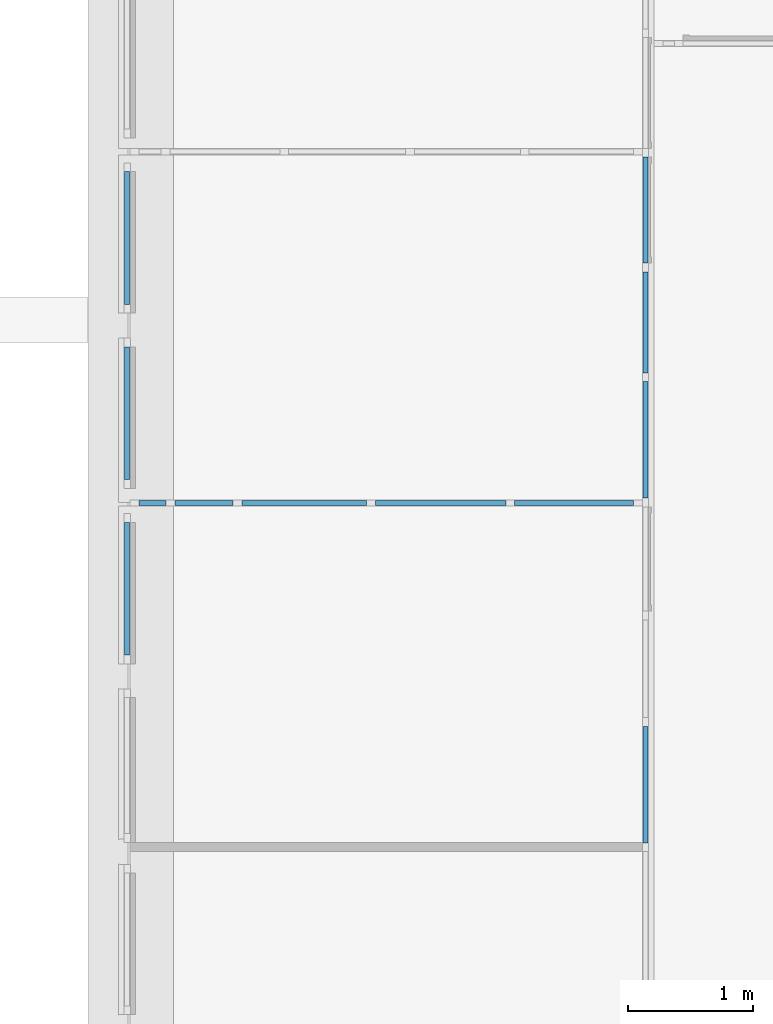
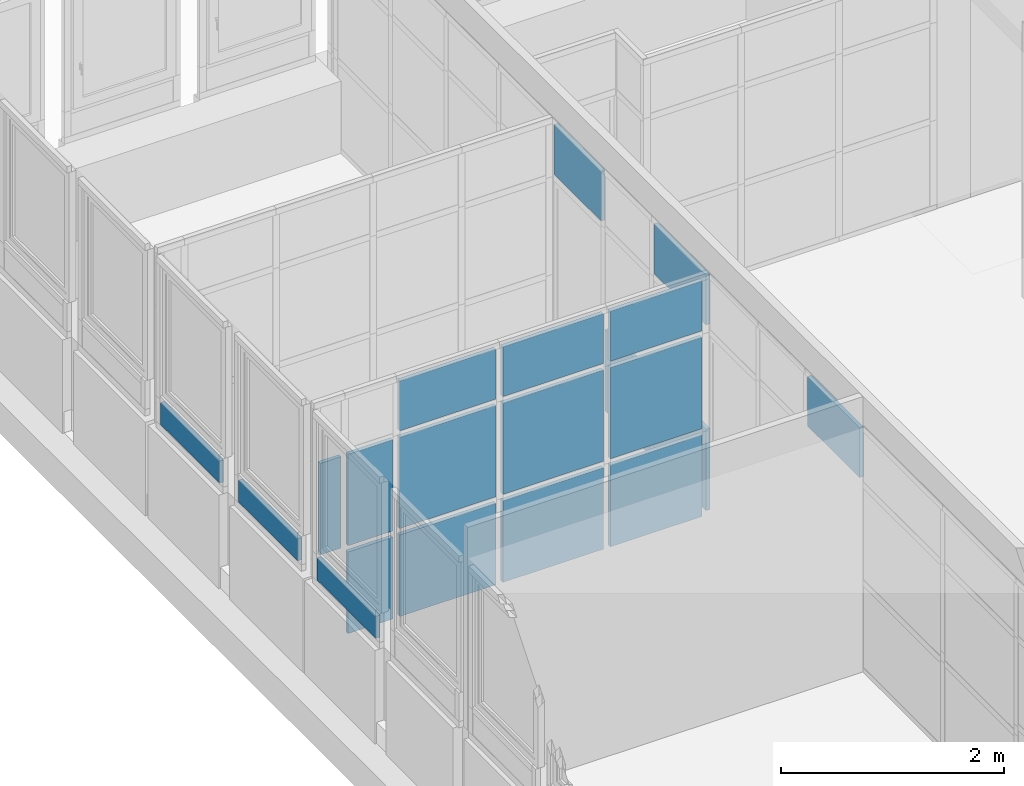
# One storey, part 28 of 97: 20 plates, 5 elements without a shape of their own.
"""IFC4 building model written with IfcOpenShell, lengths in metres."""

from ifc_helpers import new_model, entity, si_unit, converted_unit, derived_unit, direction, frame, origin, place, context, subcontext, project, spatial, indexed_curve, outline, extrude, shape, source, transform, mapped, material, layer, layer_set, type_object, type_shapes, element, aggregate, save


model = new_model("IFC4")

# Units and contexts
model_context = context("Model", 3, precision=1e-05, world=origin(), true_north=direction((6.12303176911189e-17, 1.0)))
body_context = subcontext(model_context, "Body", "Model", "MODEL_VIEW")
footprint_context = subcontext(model_context, "FootPrint", "Model", "MODEL_VIEW")
ifc_project = project(units=[si_unit("LENGTHUNIT", "METRE"), si_unit("AREAUNIT", "SQUARE_METRE"), si_unit("VOLUMEUNIT", "CUBIC_METRE"), converted_unit("PLANEANGLEUNIT", "DEGREE", entity("IfcRatioMeasure", 0.0174532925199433), si_unit("PLANEANGLEUNIT", "RADIAN"), dimensions=[0, 0, 0, 0, 0, 0, 0]), si_unit("MASSUNIT", "GRAM", prefix="KILO"), derived_unit("MASSDENSITYUNIT", [(si_unit("MASSUNIT", "GRAM", prefix="KILO"), 1), (si_unit("LENGTHUNIT", "METRE"), -3)]), derived_unit("MOMENTOFINERTIAUNIT", [(si_unit("LENGTHUNIT", "METRE"), 4)]), si_unit("TIMEUNIT", "SECOND"), si_unit("FREQUENCYUNIT", "HERTZ"), si_unit("THERMODYNAMICTEMPERATUREUNIT", "DEGREE_CELSIUS"), derived_unit("THERMALTRANSMITTANCEUNIT", [(si_unit("MASSUNIT", "GRAM", prefix="KILO"), 1), (si_unit("THERMODYNAMICTEMPERATUREUNIT", "KELVIN"), -1), (si_unit("TIMEUNIT", "SECOND"), -3)]), derived_unit("VOLUMETRICFLOWRATEUNIT", [(si_unit("LENGTHUNIT", "METRE"), 3), (si_unit("TIMEUNIT", "SECOND"), -1)]), si_unit("ELECTRICCURRENTUNIT", "AMPERE"), si_unit("ELECTRICVOLTAGEUNIT", "VOLT"), si_unit("POWERUNIT", "WATT"), si_unit("FORCEUNIT", "NEWTON", prefix="KILO"), si_unit("ILLUMINANCEUNIT", "LUX"), si_unit("LUMINOUSFLUXUNIT", "LUMEN"), si_unit("LUMINOUSINTENSITYUNIT", "CANDELA"), derived_unit("USERDEFINED", [(si_unit("MASSUNIT", "GRAM", prefix="KILO"), -1), (si_unit("LENGTHUNIT", "METRE"), -2), (si_unit("TIMEUNIT", "SECOND"), 3), (si_unit("LUMINOUSFLUXUNIT", "LUMEN"), 1)]), derived_unit("LINEARVELOCITYUNIT", [(si_unit("LENGTHUNIT", "METRE"), 1), (si_unit("TIMEUNIT", "SECOND"), -1)]), si_unit("PRESSUREUNIT", "PASCAL"), derived_unit("USERDEFINED", [(si_unit("LENGTHUNIT", "METRE"), -2), (si_unit("MASSUNIT", "GRAM", prefix="KILO"), 1), (si_unit("TIMEUNIT", "SECOND"), -2)]), derived_unit("LINEARFORCEUNIT", [(si_unit("MASSUNIT", "GRAM", prefix="KILO"), 1), (si_unit("LENGTHUNIT", "METRE"), 1), (si_unit("TIMEUNIT", "SECOND"), -2), (si_unit("LENGTHUNIT", "METRE"), -1)]), derived_unit("PLANARFORCEUNIT", [(si_unit("MASSUNIT", "GRAM", prefix="KILO"), 1), (si_unit("LENGTHUNIT", "METRE"), 1), (si_unit("TIMEUNIT", "SECOND"), -2), (si_unit("LENGTHUNIT", "METRE"), -2)])], contexts=[model_context])

# Site, building, storey
site_placement = place(None, origin())
site = spatial("IfcSite", under=ifc_project, at=site_placement, Name="Default", CompositionType="ELEMENT")
building_placement = place(site_placement, origin())
building = spatial("IfcBuilding", under=site, at=building_placement, Name="HOTEL CONSULAIRE BOULOGNE SUR MER", CompositionType="ELEMENT")
storey_placement = place(building_placement, frame((0.0, 0.0, 3.62152697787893)))
storey = spatial("IfcBuildingStorey", under=building, at=storey_placement, Name="Niveau 1", CompositionType="ELEMENT", Elevation=3.62152697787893)

# Curtain wall, plate
curtain_wall_type = type_object("IfcCurtainWallType", Name="Mur-rideau:Simple panneau", PredefinedType="NOTDEFINED")
curtain_wall_1_placement = place(storey_placement, frame((0.0, 0.0, -3.62152697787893)))
curtain_wall_1 = element("IfcCurtainWall", 1, at=curtain_wall_1_placement, inside=storey, type_object=curtain_wall_type, Name="Mur-rideau:Simple panneau", ObjectType="Mur-rideau:Simple panneau", PredefinedType="NOTDEFINED")
ifc_material = material(Name="Verre", Category="Verre")
ifc_layer_1 = layer(ifc_material, 0.04, Name="Verre", Category="Verre")
ifc_layer_set_1 = layer_set([ifc_layer_1], Name="Mur-rideau:Simple panneau")
plate_type_1 = type_object("IfcPlateType", Name="Panneau système:Vitré", PredefinedType="CURTAIN_PANEL", material=ifc_layer_set_1)
shared_shape_1 = source(origin(), body_context, "Body", "SweptSolid", [
    extrude(outline(indexed_curve([(-0.02, -0.530000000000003), (0.02, -0.530000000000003), (0.02, 0.530000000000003), (-0.02, 0.530000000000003), (-0.02, -0.530000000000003)], self_intersect=False)), frame((0.530000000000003, 0.02, 0.0), z_axis=(0.0, 0.0, 1.0), x_axis=(0.0, 1.0, 0.0)), (0.0, 0.0, 1.0), 0.243),
])
shared_shape_2 = source(frame((-0.530000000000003, 0.00500000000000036, 0.0)), footprint_context, "FootPrint", "Curve2D", [
    entity("IfcIndexedPolyCurve", entity("IfcCartesianPointList2D", [[0.691544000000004, 0.00347600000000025], [0.691544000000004, 0.0434760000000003], [-0.368456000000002, 0.0434760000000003], [-0.368456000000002, 0.00347600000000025], [0.691544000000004, 0.00347600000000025]]), None, False),
])
type_shapes(plate_type_1, [shared_shape_1, shared_shape_2])
plate_1_placement = place(curtain_wall_1_placement, frame((-13.7920998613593, -18.2414499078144, 4.48313951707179), z_axis=(0.0, 0.0, 1.0), x_axis=(0.0, 1.0, 0.0)))
plate_1 = element("IfcPlate", 2, at=plate_1_placement, type_object=plate_type_1, material=ifc_layer_set_1, Name="Panneau système:Vitré", ObjectType="Panneau système:Vitré", PredefinedType="CURTAIN_PANEL", shapes=[
    shape(body_context, "Body", "MappedRepresentation", [mapped(shared_shape_1, transform((0.0, 0.0, 0.0), scale=1.0))]),
    shape(body_context, "Body", "MappedRepresentation", [mapped(shared_shape_2, transform((0.0, 0.0, 0.0), scale=1.0))]),
])
aggregate(curtain_wall_1, [plate_1])

curtain_wall_2_placement = place(storey_placement, frame((0.0, 0.0, -3.62152697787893)))
curtain_wall_2 = element("IfcCurtainWall", 3, at=curtain_wall_2_placement, inside=storey, type_object=curtain_wall_type, Name="Mur-rideau:Simple panneau", ObjectType="Mur-rideau:Simple panneau", PredefinedType="NOTDEFINED")
plate_2_placement = place(curtain_wall_2_placement, frame((-13.7920998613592, -16.8414499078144, 4.48313951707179), z_axis=(0.0, 0.0, 1.0), x_axis=(0.0, 1.0, 0.0)))
plate_2 = element("IfcPlate", 4, at=plate_2_placement, type_object=plate_type_1, material=ifc_layer_set_1, Name="Panneau système:Vitré", ObjectType="Panneau système:Vitré", PredefinedType="CURTAIN_PANEL", shapes=[
    shape(body_context, "Body", "MappedRepresentation", [mapped(shared_shape_1, transform((0.0, 0.0, 0.0), scale=1.0))]),
    shape(body_context, "Body", "MappedRepresentation", [mapped(shared_shape_2, transform((0.0, 0.0, 0.0), scale=1.0))]),
])
aggregate(curtain_wall_2, [plate_2])

curtain_wall_3_placement = place(storey_placement, frame((0.0, 0.0, -3.62152697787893)))
curtain_wall_3 = element("IfcCurtainWall", 5, at=curtain_wall_3_placement, inside=storey, type_object=curtain_wall_type, Name="Mur-rideau:Simple panneau", ObjectType="Mur-rideau:Simple panneau", PredefinedType="NOTDEFINED")
plate_3_placement = place(curtain_wall_3_placement, frame((-13.7920998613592, -15.4414499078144, 4.48313951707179), z_axis=(0.0, 0.0, 1.0), x_axis=(0.0, 1.0, 0.0)))
plate_3 = element("IfcPlate", 6, at=plate_3_placement, type_object=plate_type_1, material=ifc_layer_set_1, Name="Panneau système:Vitré", ObjectType="Panneau système:Vitré", PredefinedType="CURTAIN_PANEL", shapes=[
    shape(body_context, "Body", "MappedRepresentation", [mapped(shared_shape_1, transform((0.0, 0.0, 0.0), scale=1.0))]),
    shape(body_context, "Body", "MappedRepresentation", [mapped(shared_shape_2, transform((0.0, 0.0, 0.0), scale=1.0))]),
])
aggregate(curtain_wall_3, [plate_3])

# Curtain wall, plates
curtain_wall_4_placement = place(storey_placement, frame((0.0, 0.0, -3.62152697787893)))
curtain_wall_4 = element("IfcCurtainWall", 7, at=curtain_wall_4_placement, inside=storey, type_object=curtain_wall_type, Name="Mur-rideau:Simple panneau", ObjectType="Mur-rideau:Simple panneau", PredefinedType="NOTDEFINED")
ifc_layer_2 = layer(ifc_material, 0.04, Name="Verre", Category="Verre")
ifc_layer_set_2 = layer_set([ifc_layer_2], Name="Mur-rideau:Simple panneau")
plate_type_2 = type_object("IfcPlateType", Name="Panneau système:Plein", PredefinedType="CURTAIN_PANEL", material=ifc_layer_set_2)
shared_shape_3 = source(origin(), body_context, "Body", "SweptSolid", [
    extrude(outline(indexed_curve([(-0.02, -0.464499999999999), (0.02, -0.464499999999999), (0.02, 0.464499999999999), (-0.02, 0.464499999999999), (-0.02, -0.464499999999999)], self_intersect=False)), frame((0.464499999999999, 0.02, 0.0), z_axis=(0.0, 0.0, 1.0), x_axis=(0.0, 1.0, 0.0)), (0.0, 0.0, 1.0), 0.891960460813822),
])
shared_shape_4 = source(frame((-0.464499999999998, 0.00499999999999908, 0.0)), footprint_context, "FootPrint", "Curve2D", [
    entity("IfcIndexedPolyCurve", entity("IfcCartesianPointList2D", [[0.6060796, 0.00347599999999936], [0.6060796, 0.0434759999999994], [-0.322920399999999, 0.0434759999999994], [-0.322920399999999, 0.00347599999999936], [0.6060796, 0.00347599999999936]]), None, False),
])
type_shapes(plate_type_2, [shared_shape_3, shared_shape_4])
plate_4_placement = place(curtain_wall_4_placement, frame((-9.65462464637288, -16.9872596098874, 3.67152697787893), z_axis=(0.0, 0.0, 1.0), x_axis=(0.0, 1.0, 0.0)))
plate_4 = element("IfcPlate", 8, at=plate_4_placement, type_object=plate_type_2, material=ifc_layer_set_2, Name="Panneau système:Plein", ObjectType="Panneau système:Plein", PredefinedType="CURTAIN_PANEL", shapes=[
    shape(body_context, "Body", "MappedRepresentation", [mapped(shared_shape_3, transform((0.0, 0.0, 0.0), scale=1.0))]),
    shape(body_context, "Body", "MappedRepresentation", [mapped(shared_shape_4, transform((0.0, 0.0, 0.0), scale=1.0))]),
])
plate_type_3 = type_object("IfcPlateType", Name="Panneau système:Plein", PredefinedType="CURTAIN_PANEL", material=ifc_layer_set_2)
shared_shape_5 = source(origin(), body_context, "Body", "SweptSolid", [
    extrude(outline(indexed_curve([(-0.02, -0.402499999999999), (0.02, -0.402499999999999), (0.02, 0.402499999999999), (-0.02, 0.402499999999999), (-0.02, -0.402499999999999)], self_intersect=False)), frame((0.402499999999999, 0.02, 0.0), z_axis=(0.0, 0.0, 1.0), x_axis=(0.0, 1.0, 0.0)), (0.0, 0.0, 1.0), 0.891960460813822),
])
shared_shape_6 = source(frame((-0.402499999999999, 0.00500000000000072, 0.0)), footprint_context, "FootPrint", "Curve2D", [
    entity("IfcIndexedPolyCurve", entity("IfcCartesianPointList2D", [[0.525181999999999, 0.0034760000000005], [0.525181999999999, 0.0434760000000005], [-0.279818, 0.0434760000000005], [-0.279818, 0.0034760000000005], [0.525181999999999, 0.0034760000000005]]), None, False),
])
type_shapes(plate_type_3, [shared_shape_5, shared_shape_6])
plate_5_placement = place(curtain_wall_4_placement, frame((-9.65462464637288, -15.9882596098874, 3.67152697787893), z_axis=(0.0, 0.0, 1.0), x_axis=(0.0, 1.0, 0.0)))
plate_5 = element("IfcPlate", 9, at=plate_5_placement, type_object=plate_type_3, material=ifc_layer_set_2, Name="Panneau système:Plein", ObjectType="Panneau système:Plein", PredefinedType="CURTAIN_PANEL", shapes=[
    shape(body_context, "Body", "MappedRepresentation", [mapped(shared_shape_5, transform((0.0, 0.0, 0.0), scale=1.0))]),
    shape(body_context, "Body", "MappedRepresentation", [mapped(shared_shape_6, transform((0.0, 0.0, 0.0), scale=1.0))]),
])
plate_type_4 = type_object("IfcPlateType", Name="Panneau système:Vitré", PredefinedType="CURTAIN_PANEL", material=ifc_layer_set_1)
shared_shape_7 = source(origin(), body_context, "Body", "SweptSolid", [
    extrude(outline(indexed_curve([(-0.02, -0.464999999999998), (0.02, -0.464999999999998), (0.02, 0.464999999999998), (-0.02, 0.464999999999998), (-0.02, -0.464999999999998)], self_intersect=False)), frame((0.464999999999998, 0.02, 0.0), z_axis=(0.0, 0.0, 1.0), x_axis=(0.0, 1.0, 0.0)), (0.0, 0.0, 1.0), 0.546),
])
shared_shape_8 = source(frame((-0.464999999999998, 0.00499999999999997, 0.0)), footprint_context, "FootPrint", "Curve2D", [
    entity("IfcIndexedPolyCurve", entity("IfcCartesianPointList2D", [[0.606731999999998, 0.00347599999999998], [0.606731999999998, 0.043476], [-0.323267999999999, 0.043476], [-0.323267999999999, 0.00347599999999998], [0.606731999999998, 0.00347599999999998]]), None, False),
])
type_shapes(plate_type_4, [shared_shape_7, shared_shape_8])
plate_6_placement = place(curtain_wall_4_placement, frame((-9.65462464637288, -19.7402596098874, 5.70248743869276), z_axis=(0.0, 0.0, 1.0), x_axis=(0.0, 1.0, 0.0)))
plate_6 = element("IfcPlate", 10, at=plate_6_placement, type_object=plate_type_4, material=ifc_layer_set_1, Name="Panneau système:Vitré", ObjectType="Panneau système:Vitré", PredefinedType="CURTAIN_PANEL", shapes=[
    shape(body_context, "Body", "MappedRepresentation", [mapped(shared_shape_7, transform((0.0, 0.0, 0.0), scale=1.0))]),
    shape(body_context, "Body", "MappedRepresentation", [mapped(shared_shape_8, transform((0.0, 0.0, 0.0), scale=1.0))]),
])
plate_type_5 = type_object("IfcPlateType", Name="Panneau système:Vitré", PredefinedType="CURTAIN_PANEL", material=ifc_layer_set_1)
shared_shape_9 = source(origin(), body_context, "Body", "SweptSolid", [
    extrude(outline(indexed_curve([(-0.02, -0.464499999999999), (0.02, -0.464499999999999), (0.02, 0.464499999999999), (-0.02, 0.464499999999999), (-0.02, -0.464499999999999)], self_intersect=False)), frame((0.464499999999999, 0.02, 0.0), z_axis=(0.0, 0.0, 1.0), x_axis=(0.0, 1.0, 0.0)), (0.0, 0.0, 1.0), 0.546),
])
shared_shape_10 = source(frame((-0.464499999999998, 0.00499999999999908, 0.0)), footprint_context, "FootPrint", "Curve2D", [
    entity("IfcIndexedPolyCurve", entity("IfcCartesianPointList2D", [[0.6060796, 0.00347599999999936], [0.6060796, 0.0434759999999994], [-0.322920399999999, 0.0434759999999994], [-0.322920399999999, 0.00347599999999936], [0.6060796, 0.00347599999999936]]), None, False),
])
type_shapes(plate_type_5, [shared_shape_9, shared_shape_10])
plate_7_placement = place(curtain_wall_4_placement, frame((-9.65462464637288, -16.9872596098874, 5.70248743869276), z_axis=(0.0, 0.0, 1.0), x_axis=(0.0, 1.0, 0.0)))
plate_7 = element("IfcPlate", 11, at=plate_7_placement, type_object=plate_type_5, material=ifc_layer_set_1, Name="Panneau système:Vitré", ObjectType="Panneau système:Vitré", PredefinedType="CURTAIN_PANEL", shapes=[
    shape(body_context, "Body", "MappedRepresentation", [mapped(shared_shape_9, transform((0.0, 0.0, 0.0), scale=1.0))]),
    shape(body_context, "Body", "MappedRepresentation", [mapped(shared_shape_10, transform((0.0, 0.0, 0.0), scale=1.0))]),
])
plate_type_6 = type_object("IfcPlateType", Name="Panneau système:Vitré", PredefinedType="CURTAIN_PANEL", material=ifc_layer_set_1)
shared_shape_11 = source(origin(), body_context, "Body", "SweptSolid", [
    extrude(outline(indexed_curve([(-0.02, -0.423499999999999), (0.02, -0.423499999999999), (0.02, 0.423499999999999), (-0.02, 0.423499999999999), (-0.02, -0.423499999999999)], self_intersect=False)), frame((0.423499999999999, 0.02, 0.0), z_axis=(0.0, 0.0, 1.0), x_axis=(0.0, 1.0, 0.0)), (0.0, 0.0, 1.0), 0.546),
])
shared_shape_12 = source(frame((-0.423499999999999, 0.00499999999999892, 0.0)), footprint_context, "FootPrint", "Curve2D", [
    entity("IfcIndexedPolyCurve", entity("IfcCartesianPointList2D", [[0.552582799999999, 0.00347599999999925], [0.552582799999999, 0.0434759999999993], [-0.294417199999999, 0.0434759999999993], [-0.294417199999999, 0.00347599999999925], [0.552582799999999, 0.00347599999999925]]), None, False),
])
type_shapes(plate_type_6, [shared_shape_11, shared_shape_12])
plate_8_placement = place(curtain_wall_4_placement, frame((-9.65462464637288, -15.1132596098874, 5.70248743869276), z_axis=(0.0, 0.0, 1.0), x_axis=(0.0, 1.0, 0.0)))
plate_8 = element("IfcPlate", 12, at=plate_8_placement, type_object=plate_type_6, material=ifc_layer_set_1, Name="Panneau système:Vitré", ObjectType="Panneau système:Vitré", PredefinedType="CURTAIN_PANEL", shapes=[
    shape(body_context, "Body", "MappedRepresentation", [mapped(shared_shape_11, transform((0.0, 0.0, 0.0), scale=1.0))]),
    shape(body_context, "Body", "MappedRepresentation", [mapped(shared_shape_12, transform((0.0, 0.0, 0.0), scale=1.0))]),
])
aggregate(curtain_wall_4, [plate_4, plate_5, plate_6, plate_7, plate_8])

curtain_wall_5_placement = place(storey_placement, frame((0.0, 0.0, -3.62152697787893)))
curtain_wall_5 = element("IfcCurtainWall", 13, at=curtain_wall_5_placement, inside=storey, type_object=curtain_wall_type, Name="Mur-rideau:Simple panneau", ObjectType="Mur-rideau:Simple panneau", PredefinedType="NOTDEFINED")
plate_type_7 = type_object("IfcPlateType", Name="Panneau système:Plein", PredefinedType="CURTAIN_PANEL", material=ifc_layer_set_2)
shared_shape_13 = source(origin(), body_context, "Body", "SweptSolid", [
    extrude(outline(indexed_curve([(-0.02, -0.4745), (0.02, -0.4745), (0.02, 0.4745), (-0.02, 0.4745), (-0.02, -0.4745)], self_intersect=False)), frame((0.4745, 0.02, 0.0), z_axis=(0.0, 0.0, 1.0), x_axis=(0.0, 1.0, 0.0)), (0.0, 0.0, 1.0), 0.892),
])
shared_shape_14 = source(frame((-0.4745, 0.00500000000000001, 0.0)), footprint_context, "FootPrint", "Curve2D", [
    entity("IfcIndexedPolyCurve", entity("IfcCartesianPointList2D", [[0.619127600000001, 0.003476], [0.619127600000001, 0.043476], [-0.3298724, 0.043476], [-0.3298724, 0.003476], [0.619127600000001, 0.003476]]), None, False),
])
type_shapes(plate_type_7, [shared_shape_13, shared_shape_14])
plate_9_placement = place(curtain_wall_5_placement, frame((-9.76962464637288, -17.0068458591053, 3.67152697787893), z_axis=(0.0, 0.0, 1.0), x_axis=(-1.0, 0.0, 0.0)))
plate_9 = element("IfcPlate", 14, at=plate_9_placement, type_object=plate_type_7, material=ifc_layer_set_2, Name="Panneau système:Plein", ObjectType="Panneau système:Plein", PredefinedType="CURTAIN_PANEL", shapes=[
    shape(body_context, "Body", "MappedRepresentation", [mapped(shared_shape_13, transform((0.0, 0.0, 0.0), scale=1.0))]),
    shape(body_context, "Body", "MappedRepresentation", [mapped(shared_shape_14, transform((0.0, 0.0, 0.0), scale=1.0))]),
])
plate_type_8 = type_object("IfcPlateType", Name="Panneau système:Plein", PredefinedType="CURTAIN_PANEL", material=ifc_layer_set_2)
shared_shape_15 = source(origin(), body_context, "Body", "SweptSolid", [
    extrude(outline(indexed_curve([(-0.02, -0.521), (0.02, -0.521), (0.02, 0.521), (-0.02, 0.521), (-0.02, -0.521)], self_intersect=False)), frame((0.521, 0.02, 0.0), z_axis=(0.0, 0.0, 1.0), x_axis=(0.0, 1.0, 0.0)), (0.0, 0.0, 1.0), 0.892),
])
shared_shape_16 = source(frame((-0.521, 0.00500000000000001, 0.0)), footprint_context, "FootPrint", "Curve2D", [
    entity("IfcIndexedPolyCurve", entity("IfcCartesianPointList2D", [[0.679800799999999, 0.003476], [0.679800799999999, 0.043476], [-0.3621992, 0.043476], [-0.3621992, 0.003476], [0.679800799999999, 0.003476]]), None, False),
])
type_shapes(plate_type_8, [shared_shape_15, shared_shape_16])
plate_10_placement = place(curtain_wall_5_placement, frame((-10.7886246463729, -17.0068458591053, 3.67152697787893), z_axis=(0.0, 0.0, 1.0), x_axis=(-1.0, 0.0, 0.0)))
plate_10 = element("IfcPlate", 15, at=plate_10_placement, type_object=plate_type_8, material=ifc_layer_set_2, Name="Panneau système:Plein", ObjectType="Panneau système:Plein", PredefinedType="CURTAIN_PANEL", shapes=[
    shape(body_context, "Body", "MappedRepresentation", [mapped(shared_shape_15, transform((0.0, 0.0, 0.0), scale=1.0))]),
    shape(body_context, "Body", "MappedRepresentation", [mapped(shared_shape_16, transform((0.0, 0.0, 0.0), scale=1.0))]),
])
plate_type_9 = type_object("IfcPlateType", Name="Panneau système:Plein", PredefinedType="CURTAIN_PANEL", material=ifc_layer_set_2)
shared_shape_17 = source(origin(), body_context, "Body", "SweptSolid", [
    extrude(outline(indexed_curve([(-0.02, -0.498238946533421), (0.02, -0.498238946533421), (0.02, 0.498238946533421), (-0.02, 0.498238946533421), (-0.02, -0.498238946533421)], self_intersect=False)), frame((0.498238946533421, 0.02, 0.0), z_axis=(0.0, 0.0, 1.0), x_axis=(0.0, 1.0, 0.0)), (0.0, 0.0, 1.0), 0.892),
])
shared_shape_18 = source(frame((-0.498238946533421, 0.00500000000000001, 0.0)), footprint_context, "FootPrint", "Curve2D", [
    entity("IfcIndexedPolyCurve", entity("IfcCartesianPointList2D", [[0.650102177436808, 0.003476], [0.650102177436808, 0.043476], [-0.346375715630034, 0.043476], [-0.346375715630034, 0.003476], [0.650102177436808, 0.003476]]), None, False),
])
type_shapes(plate_type_9, [shared_shape_17, shared_shape_18])
plate_11_placement = place(curtain_wall_5_placement, frame((-11.9006246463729, -17.0068458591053, 3.67152697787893), z_axis=(0.0, 0.0, 1.0), x_axis=(-1.0, 0.0, 0.0)))
plate_11 = element("IfcPlate", 16, at=plate_11_placement, type_object=plate_type_9, material=ifc_layer_set_2, Name="Panneau système:Plein", ObjectType="Panneau système:Plein", PredefinedType="CURTAIN_PANEL", shapes=[
    shape(body_context, "Body", "MappedRepresentation", [mapped(shared_shape_17, transform((0.0, 0.0, 0.0), scale=1.0))]),
    shape(body_context, "Body", "MappedRepresentation", [mapped(shared_shape_18, transform((0.0, 0.0, 0.0), scale=1.0))]),
])
plate_type_10 = type_object("IfcPlateType", Name="Panneau système:Plein", PredefinedType="CURTAIN_PANEL", material=ifc_layer_set_2)
shared_shape_19 = source(origin(), body_context, "Body", "SweptSolid", [
    extrude(outline(indexed_curve([(-0.02, -0.232499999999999), (0.02, -0.232499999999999), (0.02, 0.232499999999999), (-0.02, 0.232499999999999), (-0.02, -0.232499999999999)], self_intersect=False)), frame((0.232499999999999, 0.02, 0.0), z_axis=(0.0, 0.0, 1.0), x_axis=(0.0, 1.0, 0.0)), (0.0, 0.0, 1.0), 0.892),
])
shared_shape_20 = source(frame((-0.232499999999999, 0.00500000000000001, 0.0)), footprint_context, "FootPrint", "Curve2D", [
    entity("IfcIndexedPolyCurve", entity("IfcCartesianPointList2D", [[0.303365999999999, 0.003476], [0.303365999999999, 0.043476], [-0.161633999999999, 0.043476], [-0.161633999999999, 0.003476], [0.303365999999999, 0.003476]]), None, False),
])
type_shapes(plate_type_10, [shared_shape_19, shared_shape_20])
plate_12_placement = place(curtain_wall_5_placement, frame((-12.9671025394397, -17.0068458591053, 3.67152697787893), z_axis=(0.0, 0.0, 1.0), x_axis=(-1.0, 0.0, 0.0)))
plate_12 = element("IfcPlate", 17, at=plate_12_placement, type_object=plate_type_10, material=ifc_layer_set_2, Name="Panneau système:Plein", ObjectType="Panneau système:Plein", PredefinedType="CURTAIN_PANEL", shapes=[
    shape(body_context, "Body", "MappedRepresentation", [mapped(shared_shape_19, transform((0.0, 0.0, 0.0), scale=1.0))]),
    shape(body_context, "Body", "MappedRepresentation", [mapped(shared_shape_20, transform((0.0, 0.0, 0.0), scale=1.0))]),
])
plate_type_11 = type_object("IfcPlateType", Name="Panneau système:Vitré", PredefinedType="CURTAIN_PANEL", material=ifc_layer_set_1)
shared_shape_21 = source(origin(), body_context, "Body", "SweptSolid", [
    extrude(outline(indexed_curve([(-0.02, -0.4745), (0.02, -0.4745), (0.02, 0.4745), (-0.02, 0.4745), (-0.02, -0.4745)], self_intersect=False)), frame((0.4745, 0.02, 0.0), z_axis=(0.0, 0.0, 1.0), x_axis=(0.0, 1.0, 0.0)), (0.0, 0.0, 1.0), 0.998960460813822),
])
shared_shape_22 = source(frame((-0.4745, 0.00500000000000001, 0.0)), footprint_context, "FootPrint", "Curve2D", [
    entity("IfcIndexedPolyCurve", entity("IfcCartesianPointList2D", [[0.619127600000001, 0.003476], [0.619127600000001, 0.043476], [-0.3298724, 0.043476], [-0.3298724, 0.003476], [0.619127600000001, 0.003476]]), None, False),
])
type_shapes(plate_type_11, [shared_shape_21, shared_shape_22])
plate_13_placement = place(curtain_wall_5_placement, frame((-9.76962464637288, -17.0068458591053, 4.63352697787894), z_axis=(0.0, 0.0, 1.0), x_axis=(-1.0, 0.0, 0.0)))
plate_13 = element("IfcPlate", 18, at=plate_13_placement, type_object=plate_type_11, material=ifc_layer_set_1, Name="Panneau système:Vitré", ObjectType="Panneau système:Vitré", PredefinedType="CURTAIN_PANEL", shapes=[
    shape(body_context, "Body", "MappedRepresentation", [mapped(shared_shape_21, transform((0.0, 0.0, 0.0), scale=1.0))]),
    shape(body_context, "Body", "MappedRepresentation", [mapped(shared_shape_22, transform((0.0, 0.0, 0.0), scale=1.0))]),
])
plate_type_12 = type_object("IfcPlateType", Name="Panneau système:Vitré", PredefinedType="CURTAIN_PANEL", material=ifc_layer_set_1)
shared_shape_23 = source(origin(), body_context, "Body", "SweptSolid", [
    extrude(outline(indexed_curve([(-0.02, -0.521), (0.02, -0.521), (0.02, 0.521), (-0.02, 0.521), (-0.02, -0.521)], self_intersect=False)), frame((0.521, 0.02, 0.0), z_axis=(0.0, 0.0, 1.0), x_axis=(0.0, 1.0, 0.0)), (0.0, 0.0, 1.0), 0.998960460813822),
])
shared_shape_24 = source(frame((-0.521, 0.00500000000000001, 0.0)), footprint_context, "FootPrint", "Curve2D", [
    entity("IfcIndexedPolyCurve", entity("IfcCartesianPointList2D", [[0.679800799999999, 0.003476], [0.679800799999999, 0.043476], [-0.3621992, 0.043476], [-0.3621992, 0.003476], [0.679800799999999, 0.003476]]), None, False),
])
type_shapes(plate_type_12, [shared_shape_23, shared_shape_24])
plate_14_placement = place(curtain_wall_5_placement, frame((-10.7886246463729, -17.0068458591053, 4.63352697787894), z_axis=(0.0, 0.0, 1.0), x_axis=(-1.0, 0.0, 0.0)))
plate_14 = element("IfcPlate", 19, at=plate_14_placement, type_object=plate_type_12, material=ifc_layer_set_1, Name="Panneau système:Vitré", ObjectType="Panneau système:Vitré", PredefinedType="CURTAIN_PANEL", shapes=[
    shape(body_context, "Body", "MappedRepresentation", [mapped(shared_shape_23, transform((0.0, 0.0, 0.0), scale=1.0))]),
    shape(body_context, "Body", "MappedRepresentation", [mapped(shared_shape_24, transform((0.0, 0.0, 0.0), scale=1.0))]),
])
plate_type_13 = type_object("IfcPlateType", Name="Panneau système:Vitré", PredefinedType="CURTAIN_PANEL", material=ifc_layer_set_1)
shared_shape_25 = source(origin(), body_context, "Body", "SweptSolid", [
    extrude(outline(indexed_curve([(-0.02, -0.498238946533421), (0.02, -0.498238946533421), (0.02, 0.498238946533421), (-0.02, 0.498238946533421), (-0.02, -0.498238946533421)], self_intersect=False)), frame((0.498238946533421, 0.02, 0.0), z_axis=(0.0, 0.0, 1.0), x_axis=(0.0, 1.0, 0.0)), (0.0, 0.0, 1.0), 0.998960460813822),
])
shared_shape_26 = source(frame((-0.498238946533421, 0.00500000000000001, 0.0)), footprint_context, "FootPrint", "Curve2D", [
    entity("IfcIndexedPolyCurve", entity("IfcCartesianPointList2D", [[0.650102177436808, 0.003476], [0.650102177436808, 0.043476], [-0.346375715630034, 0.043476], [-0.346375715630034, 0.003476], [0.650102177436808, 0.003476]]), None, False),
])
type_shapes(plate_type_13, [shared_shape_25, shared_shape_26])
plate_15_placement = place(curtain_wall_5_placement, frame((-11.9006246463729, -17.0068458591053, 4.63352697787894), z_axis=(0.0, 0.0, 1.0), x_axis=(-1.0, 0.0, 0.0)))
plate_15 = element("IfcPlate", 20, at=plate_15_placement, type_object=plate_type_13, material=ifc_layer_set_1, Name="Panneau système:Vitré", ObjectType="Panneau système:Vitré", PredefinedType="CURTAIN_PANEL", shapes=[
    shape(body_context, "Body", "MappedRepresentation", [mapped(shared_shape_25, transform((0.0, 0.0, 0.0), scale=1.0))]),
    shape(body_context, "Body", "MappedRepresentation", [mapped(shared_shape_26, transform((0.0, 0.0, 0.0), scale=1.0))]),
])
plate_type_14 = type_object("IfcPlateType", Name="Panneau système:Vitré", PredefinedType="CURTAIN_PANEL", material=ifc_layer_set_1)
shared_shape_27 = source(origin(), body_context, "Body", "SweptSolid", [
    extrude(outline(indexed_curve([(-0.02, -0.232499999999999), (0.02, -0.232499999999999), (0.02, 0.232499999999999), (-0.02, 0.232499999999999), (-0.02, -0.232499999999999)], self_intersect=False)), frame((0.232499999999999, 0.02, 0.0), z_axis=(0.0, 0.0, 1.0), x_axis=(0.0, 1.0, 0.0)), (0.0, 0.0, 1.0), 0.998960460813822),
])
shared_shape_28 = source(frame((-0.232499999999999, 0.00500000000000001, 0.0)), footprint_context, "FootPrint", "Curve2D", [
    entity("IfcIndexedPolyCurve", entity("IfcCartesianPointList2D", [[0.303365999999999, 0.003476], [0.303365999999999, 0.043476], [-0.161633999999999, 0.043476], [-0.161633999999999, 0.003476], [0.303365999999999, 0.003476]]), None, False),
])
type_shapes(plate_type_14, [shared_shape_27, shared_shape_28])
plate_16_placement = place(curtain_wall_5_placement, frame((-12.9671025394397, -17.0068458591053, 4.63352697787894), z_axis=(0.0, 0.0, 1.0), x_axis=(-1.0, 0.0, 0.0)))
plate_16 = element("IfcPlate", 21, at=plate_16_placement, type_object=plate_type_14, material=ifc_layer_set_1, Name="Panneau système:Vitré", ObjectType="Panneau système:Vitré", PredefinedType="CURTAIN_PANEL", shapes=[
    shape(body_context, "Body", "MappedRepresentation", [mapped(shared_shape_27, transform((0.0, 0.0, 0.0), scale=1.0))]),
    shape(body_context, "Body", "MappedRepresentation", [mapped(shared_shape_28, transform((0.0, 0.0, 0.0), scale=1.0))]),
])
plate_type_15 = type_object("IfcPlateType", Name="Panneau système:Vitré", PredefinedType="CURTAIN_PANEL", material=ifc_layer_set_1)
shared_shape_29 = source(origin(), body_context, "Body", "SweptSolid", [
    extrude(outline(indexed_curve([(-0.02, -0.108), (0.02, -0.108), (0.02, 0.108), (-0.02, 0.108), (-0.02, -0.108)], self_intersect=False)), frame((0.108, 0.02, 0.0), z_axis=(0.0, 0.0, 1.0), x_axis=(0.0, 1.0, 0.0)), (0.0, 0.0, 1.0), 0.998960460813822),
])
shared_shape_30 = source(frame((-0.108000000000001, 0.00499999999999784, 0.0)), footprint_context, "FootPrint", "Curve2D", [
    entity("IfcIndexedPolyCurve", entity("IfcCartesianPointList2D", [[0.1409184, 0.0034759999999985], [0.1409184, 0.0434759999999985], [-0.0750816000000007, 0.0434759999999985], [-0.0750816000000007, 0.0034759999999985], [0.1409184, 0.0034759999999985]]), None, False),
])
type_shapes(plate_type_15, [shared_shape_29, shared_shape_30])
plate_17_placement = place(curtain_wall_5_placement, frame((-13.5021025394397, -17.0068458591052, 4.63352697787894), z_axis=(0.0, 0.0, 1.0), x_axis=(-1.0, 0.0, 0.0)))
plate_17 = element("IfcPlate", 22, at=plate_17_placement, type_object=plate_type_15, material=ifc_layer_set_1, Name="Panneau système:Vitré", ObjectType="Panneau système:Vitré", PredefinedType="CURTAIN_PANEL", shapes=[
    shape(body_context, "Body", "MappedRepresentation", [mapped(shared_shape_29, transform((0.0, 0.0, 0.0), scale=1.0))]),
    shape(body_context, "Body", "MappedRepresentation", [mapped(shared_shape_30, transform((0.0, 0.0, 0.0), scale=1.0))]),
])
plate_type_16 = type_object("IfcPlateType", Name="Panneau système:Vitré", PredefinedType="CURTAIN_PANEL", material=ifc_layer_set_1)
shared_shape_31 = source(origin(), body_context, "Body", "SweptSolid", [
    extrude(outline(indexed_curve([(-0.02, -0.4745), (0.02, -0.4745), (0.02, 0.4745), (-0.02, 0.4745), (-0.02, -0.4745)], self_intersect=False)), frame((0.4745, 0.02, 0.0), z_axis=(0.0, 0.0, 1.0), x_axis=(0.0, 1.0, 0.0)), (0.0, 0.0, 1.0), 0.546),
])
shared_shape_32 = source(frame((-0.4745, 0.00500000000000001, 0.0)), footprint_context, "FootPrint", "Curve2D", [
    entity("IfcIndexedPolyCurve", entity("IfcCartesianPointList2D", [[0.619127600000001, 0.003476], [0.619127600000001, 0.043476], [-0.3298724, 0.043476], [-0.3298724, 0.003476], [0.619127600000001, 0.003476]]), None, False),
])
type_shapes(plate_type_16, [shared_shape_31, shared_shape_32])
plate_18_placement = place(curtain_wall_5_placement, frame((-9.76962464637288, -17.0068458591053, 5.70248743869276), z_axis=(0.0, 0.0, 1.0), x_axis=(-1.0, 0.0, 0.0)))
plate_18 = element("IfcPlate", 23, at=plate_18_placement, type_object=plate_type_16, material=ifc_layer_set_1, Name="Panneau système:Vitré", ObjectType="Panneau système:Vitré", PredefinedType="CURTAIN_PANEL", shapes=[
    shape(body_context, "Body", "MappedRepresentation", [mapped(shared_shape_31, transform((0.0, 0.0, 0.0), scale=1.0))]),
    shape(body_context, "Body", "MappedRepresentation", [mapped(shared_shape_32, transform((0.0, 0.0, 0.0), scale=1.0))]),
])
plate_type_17 = type_object("IfcPlateType", Name="Panneau système:Vitré", PredefinedType="CURTAIN_PANEL", material=ifc_layer_set_1)
shared_shape_33 = source(origin(), body_context, "Body", "SweptSolid", [
    extrude(outline(indexed_curve([(-0.02, -0.521), (0.02, -0.521), (0.02, 0.521), (-0.02, 0.521), (-0.02, -0.521)], self_intersect=False)), frame((0.521, 0.02, 0.0), z_axis=(0.0, 0.0, 1.0), x_axis=(0.0, 1.0, 0.0)), (0.0, 0.0, 1.0), 0.546),
])
shared_shape_34 = source(frame((-0.521, 0.00500000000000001, 0.0)), footprint_context, "FootPrint", "Curve2D", [
    entity("IfcIndexedPolyCurve", entity("IfcCartesianPointList2D", [[0.679800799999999, 0.003476], [0.679800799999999, 0.043476], [-0.3621992, 0.043476], [-0.3621992, 0.003476], [0.679800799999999, 0.003476]]), None, False),
])
type_shapes(plate_type_17, [shared_shape_33, shared_shape_34])
plate_19_placement = place(curtain_wall_5_placement, frame((-10.7886246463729, -17.0068458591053, 5.70248743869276), z_axis=(0.0, 0.0, 1.0), x_axis=(-1.0, 0.0, 0.0)))
plate_19 = element("IfcPlate", 24, at=plate_19_placement, type_object=plate_type_17, material=ifc_layer_set_1, Name="Panneau système:Vitré", ObjectType="Panneau système:Vitré", PredefinedType="CURTAIN_PANEL", shapes=[
    shape(body_context, "Body", "MappedRepresentation", [mapped(shared_shape_33, transform((0.0, 0.0, 0.0), scale=1.0))]),
    shape(body_context, "Body", "MappedRepresentation", [mapped(shared_shape_34, transform((0.0, 0.0, 0.0), scale=1.0))]),
])
plate_type_18 = type_object("IfcPlateType", Name="Panneau système:Vitré", PredefinedType="CURTAIN_PANEL", material=ifc_layer_set_1)
shared_shape_35 = source(origin(), body_context, "Body", "SweptSolid", [
    extrude(outline(indexed_curve([(-0.02, -0.498238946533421), (0.02, -0.498238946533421), (0.02, 0.498238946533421), (-0.02, 0.498238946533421), (-0.02, -0.498238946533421)], self_intersect=False)), frame((0.498238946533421, 0.02, 0.0), z_axis=(0.0, 0.0, 1.0), x_axis=(0.0, 1.0, 0.0)), (0.0, 0.0, 1.0), 0.546),
])
shared_shape_36 = source(frame((-0.498238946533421, 0.00500000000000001, 0.0)), footprint_context, "FootPrint", "Curve2D", [
    entity("IfcIndexedPolyCurve", entity("IfcCartesianPointList2D", [[0.650102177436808, 0.003476], [0.650102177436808, 0.043476], [-0.346375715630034, 0.043476], [-0.346375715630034, 0.003476], [0.650102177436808, 0.003476]]), None, False),
])
type_shapes(plate_type_18, [shared_shape_35, shared_shape_36])
plate_20_placement = place(curtain_wall_5_placement, frame((-11.9006246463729, -17.0068458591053, 5.70248743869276), z_axis=(0.0, 0.0, 1.0), x_axis=(-1.0, 0.0, 0.0)))
plate_20 = element("IfcPlate", 25, at=plate_20_placement, type_object=plate_type_18, material=ifc_layer_set_1, Name="Panneau système:Vitré", ObjectType="Panneau système:Vitré", PredefinedType="CURTAIN_PANEL", shapes=[
    shape(body_context, "Body", "MappedRepresentation", [mapped(shared_shape_35, transform((0.0, 0.0, 0.0), scale=1.0))]),
    shape(body_context, "Body", "MappedRepresentation", [mapped(shared_shape_36, transform((0.0, 0.0, 0.0), scale=1.0))]),
])
aggregate(curtain_wall_5, [plate_9, plate_10, plate_11, plate_12, plate_13, plate_14, plate_15, plate_16, plate_17, plate_18, plate_19, plate_20])

save(model, "model.ifc")
